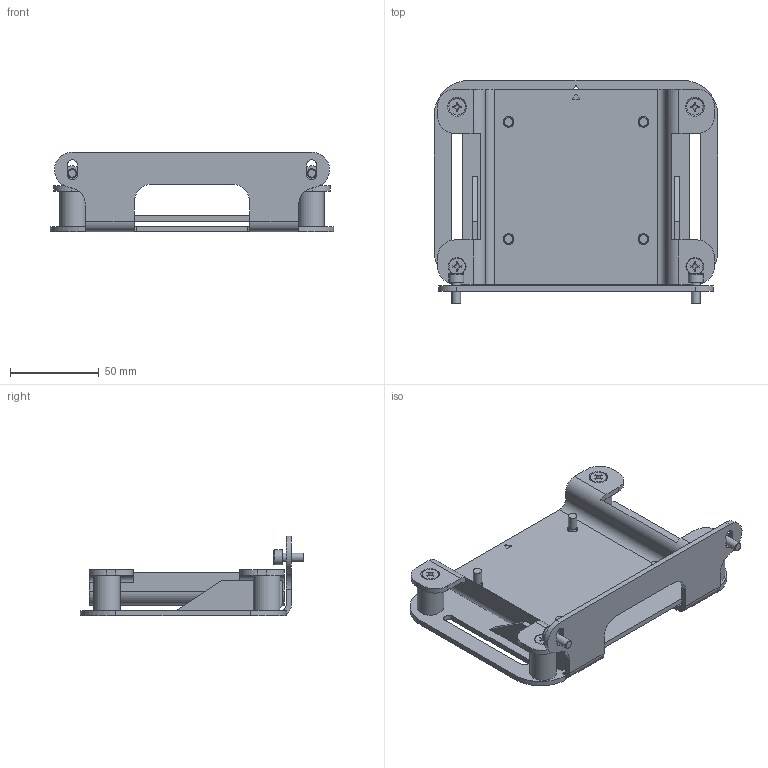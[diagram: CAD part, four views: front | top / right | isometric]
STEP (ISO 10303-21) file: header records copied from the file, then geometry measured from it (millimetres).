
FILE_DESCRIPTION(/* description */ (''),/* implementation_level */ '2;1');
FILE_NAME(/* name */ 'KLM-ZJ-CZ.stp',/* time_stamp */ '2025-08-06T16:49:46+08:00',/* author */ (''),/* organization */ (''),/* preprocessor_version */ 'ST-DEVELOPER v16',/* originating_system */ 'SIEMENS PLM Software NX 10.0',/* authorisation */ '');
FILE_SCHEMA (('AP203_CONFIGURATION_CONTROLLED_3D_DESIGN_OF_MECHANICAL_PARTS_AND_ASSEMBLIES_MIM_LF { 1 0 10303 403 2 1 2}'));
Length unit declared in the file: millimetre
Products named in the file (1): JSB-34C87966jygk
Bounding box: 160 x 126 x 45 mm (x, y, z)
Volume: 132839.8 mm3; surface area: 94265.9 mm2
Topology: 22 solids, 22 shells, 539 faces, 1348 edges, 866 vertices
Faces by surface type: plane 377, cylinder 102, cone 44, torus 16
Full cylindrical faces by diameter (mm): 4.826 x14, 6 x16, 8.5 x2, 9.3 x12, 15 x4
Entity records: 19199 total; most frequent: CARTESIAN_POINT 2746, DIRECTION 2580, ORIENTED_EDGE 2500, EDGE_CURVE 1250, LINE 964, VECTOR 964, VERTEX_POINT 866, AXIS2_PLACEMENT_3D 808
